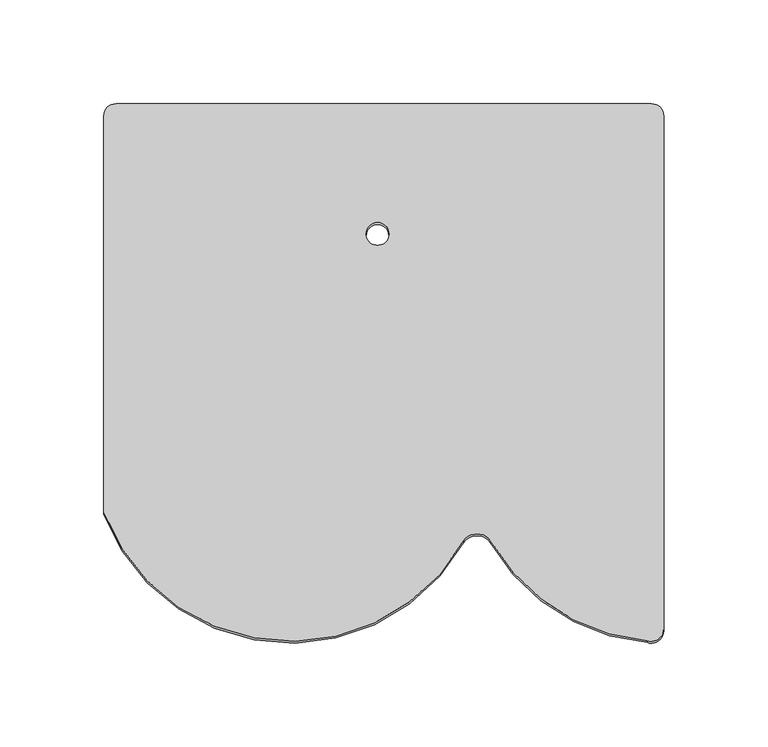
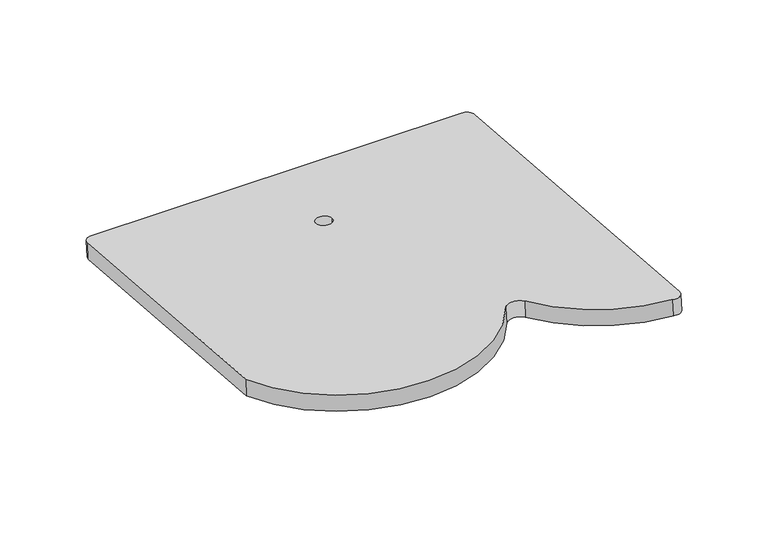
"""IFC4 building model written with IfcOpenShell, lengths in millimetres: proxy geometry, ML-PR-V-P-RED-N : K 1,5X-P."""

import ifcopenshell
import ifcopenshell.guid

model = None  # the IFC model being written
_history = None  # IfcOwnerHistory: only IFC2X3 demands one
_inside = {}  # id of a spatial element -> (the spatial element, [elements in it])
_under = {}  # id of a project, library or spatial element -> (it, [spatial elements below it])
_declared = {}  # id of a project -> (the project, [libraries it declares])
_typed = {}  # id of a type object -> (the type object, [elements of that type])
_made_of = {}  # id of a material, layer set ... -> (it, [elements and type objects made of it])


def new_model(schema):
    """Start an empty IFC model of exactly this schema.

    Asked for "IFC4X3", IfcOpenShell would pick the latest addendum, in which some entities
    have other attributes; the version numbers below select the first issue.
    IFC2X3 requires an IfcOwnerHistory on every rooted entity: one is made here for all.
    """
    global model, _history
    if schema == "IFC4X3":
        model = ifcopenshell.file(schema_version=(4, 3, 0, 0))
    else:
        model = ifcopenshell.file(schema=schema)
    _inside.clear()
    _under.clear()
    _declared.clear()
    _typed.clear()
    _made_of.clear()
    _history = None
    if model.schema == "IFC2X3":
        org = make("IfcOrganization", Name="unknown")
        user = make(
            "IfcPersonAndOrganization",
            ThePerson=make("IfcPerson", FamilyName="unknown"),
            TheOrganization=org,
        )
        app = make(
            "IfcApplication",
            ApplicationDeveloper=org,
            Version="unknown",
            ApplicationFullName="unknown",
            ApplicationIdentifier="unknown",
        )
        _history = make(
            "IfcOwnerHistory",
            OwningUser=user,
            OwningApplication=app,
            ChangeAction="ADDED",
            CreationDate=0,
        )
    return model


def make(cls, **values):
    """One entity of the class cls with the attributes given. An attribute that is None is left unset."""
    return model.create_entity(
        cls, **{name: value for name, value in values.items() if value is not None}
    )


def rooted(cls, **values):
    """An entity with a GlobalId (a new one), such as an element, a storey or a relation."""
    return make(cls, GlobalId=ifcopenshell.guid.new(), OwnerHistory=_history, **values)


def si_unit(unit_type, name, prefix=None):
    """IfcSIUnit, for example si_unit("LENGTHUNIT", "METRE", prefix="MILLI")."""
    return make("IfcSIUnit", UnitType=unit_type, Prefix=prefix, Name=name)


def assignment(units):
    """IfcUnitAssignment: the units of a project."""
    return None if units is None else make("IfcUnitAssignment", Units=units)


def point(xyz):
    """IfcCartesianPoint."""
    return None if xyz is None else make("IfcCartesianPoint", Coordinates=xyz)


def direction(xyz):
    """IfcDirection."""
    return None if xyz is None else make("IfcDirection", DirectionRatios=xyz)


def frame(location, z_axis=None, x_axis=None):
    """IfcAxis2Placement3D, a coordinate frame: its origin and axes. An axis left out is left unset."""
    return make(
        "IfcAxis2Placement3D",
        Location=point(location),
        Axis=direction(z_axis),
        RefDirection=direction(x_axis),
    )


def frame_2d(location, x_axis=None):
    """IfcAxis2Placement2D, a coordinate frame in the plane: its origin and x axis."""
    return make(
        "IfcAxis2Placement2D", Location=point(location), RefDirection=direction(x_axis)
    )


def origin():
    """The frame at (0, 0, 0) with its axes left unset."""
    return frame((0.0, 0.0, 0.0))


def place(relative_to, where):
    """IfcLocalPlacement: puts the frame where relative to a parent placement (None: the world)."""
    return make(
        "IfcLocalPlacement", PlacementRelTo=relative_to, RelativePlacement=where
    )


def context(
    kind, dimensions, precision=None, world=None, true_north=None, identifier=None
):
    """IfcGeometricRepresentationContext, for example the 3D "Model" context."""
    return make(
        "IfcGeometricRepresentationContext",
        ContextIdentifier=identifier,
        ContextType=kind,
        CoordinateSpaceDimension=dimensions,
        Precision=precision,
        WorldCoordinateSystem=world,
        TrueNorth=true_north,
    )


def project(units=None, contexts=None):
    """IfcProject with its units and contexts."""
    return rooted(
        "IfcProject",
        Name="project",
        RepresentationContexts=contexts,
        UnitsInContext=assignment(units),
    )


def spatial(cls, under=None, at=None, **own):
    """A site, building, storey or space (cls), placed at a placement, below another one or the project."""
    s = rooted(cls, ObjectPlacement=at, **own)
    if under is not None:
        _under.setdefault(under.id(), (under, []))[1].append(s)
    return s


def polyline(points):
    """IfcPolyline through the points."""
    return make("IfcPolyline", Points=[point(p) for p in points])


def circle_curve(where, radius):
    """IfcCircle in the frame where."""
    return make("IfcCircle", Position=where, Radius=radius)


def trimmed(basis, trim1, trim2, sense, master):
    """IfcTrimmedCurve: the piece of a basis curve between two trims."""
    return make(
        "IfcTrimmedCurve",
        BasisCurve=basis,
        Trim1=trim1,
        Trim2=trim2,
        SenseAgreement=sense,
        MasterRepresentation=master,
    )


def segment(curve, same_sense, transition):
    """IfcCompositeCurveSegment."""
    return make(
        "IfcCompositeCurveSegment",
        Transition=transition,
        SameSense=same_sense,
        ParentCurve=curve,
    )


def composite_curve(segments, self_intersect=None):
    """IfcCompositeCurve: segments joined end to end."""
    return make("IfcCompositeCurve", Segments=segments, SelfIntersect=self_intersect)


def outline(outer, holes=None, kind="AREA"):
    """IfcArbitraryClosedProfileDef: a profile drawn as a closed curve; with holes, ...WithVoids."""
    if holes is None:
        return make("IfcArbitraryClosedProfileDef", ProfileType=kind, OuterCurve=outer)
    return make(
        "IfcArbitraryProfileDefWithVoids",
        ProfileType=kind,
        OuterCurve=outer,
        InnerCurves=holes,
    )


def extrude(swept, where, along, depth):
    """IfcExtrudedAreaSolid: the profile swept, set in the frame where, extruded along a direction by depth."""
    return make(
        "IfcExtrudedAreaSolid",
        SweptArea=swept,
        Position=where,
        ExtrudedDirection=direction(along),
        Depth=depth,
    )


def shape(context_of_items, identifier, shape_type, items):
    """IfcShapeRepresentation: the items that make up one representation, for example the "Body"."""
    return make(
        "IfcShapeRepresentation",
        ContextOfItems=context_of_items,
        RepresentationIdentifier=identifier,
        RepresentationType=shape_type,
        Items=items,
    )


def source(mapping_origin, context_of_items, identifier, shape_type, items):
    """IfcRepresentationMap: a shape defined once, which mapped items show again and again."""
    return make(
        "IfcRepresentationMap",
        MappingOrigin=mapping_origin,
        MappedRepresentation=shape(context_of_items, identifier, shape_type, items),
    )


def transform(
    local_origin,
    x_axis=None,
    y_axis=None,
    z_axis=None,
    scale=None,
    scale2=None,
    scale3=None,
    uniform=True,
):
    """IfcCartesianTransformationOperator3D, or its non-uniform kind. x_axis, y_axis, z_axis: its Axis1, 2, 3."""
    if uniform:
        return make(
            "IfcCartesianTransformationOperator3D",
            Axis1=direction(x_axis),
            Axis2=direction(y_axis),
            LocalOrigin=point(local_origin),
            Scale=scale,
            Axis3=direction(z_axis),
        )
    return make(
        "IfcCartesianTransformationOperator3DnonUniform",
        Axis1=direction(x_axis),
        Axis2=direction(y_axis),
        LocalOrigin=point(local_origin),
        Scale=scale,
        Axis3=direction(z_axis),
        Scale2=scale2,
        Scale3=scale3,
    )


def mapped(mapping_source, mapping_target):
    """IfcMappedItem: shows the shape of a source again, moved by a transform."""
    return make(
        "IfcMappedItem", MappingSource=mapping_source, MappingTarget=mapping_target
    )


def made_of(thing, what):
    """Note that an element or type object is made of a material, layer set ...; save() writes the relation."""
    if what is not None:
        _made_of.setdefault(what.id(), (what, []))[1].append(thing)
    return thing


def element(
    cls,
    number,
    at=None,
    inside=None,
    cuts=None,
    type_object=None,
    material=None,
    context=None,
    identifier="Body",
    shape_type=None,
    held_by="IfcProductDefinitionShape",
    body=None,
    shapes=None,
    **own,
):
    """One element of the class cls, such as IfcWall. Its Tag is "e" and its number.

    at: its placement. inside: the storey or other place that contains it. cuts: it is an
    opening in that element (IfcRelVoidsElement). A single representation is given by context,
    identifier, shape_type and body (its items); several are given by shapes. held_by: the class
    of the entity that holds the representations. save() writes the other relations.
    """
    e = rooted(cls, Tag="e%d" % number, ObjectPlacement=at, **own)
    if body is not None:
        shapes = [shape(context, identifier, shape_type, body)]
    if shapes is not None:
        e.Representation = make(held_by, Representations=shapes)
    if inside is not None:
        _inside.setdefault(inside.id(), (inside, []))[1].append(e)
    if cuts is not None:
        rooted(
            "IfcRelVoidsElement", RelatingBuildingElement=cuts, RelatedOpeningElement=e
        )
    if type_object is not None:
        _typed.setdefault(type_object.id(), (type_object, []))[1].append(e)
    return made_of(e, material)


def aggregate(whole, parts):
    """IfcRelAggregates: a whole, such as a stair, and the parts it consists of."""
    return rooted("IfcRelAggregates", RelatingObject=whole, RelatedObjects=parts)


def save(model, path):
    """Write the relations noted so far, then the file.

    IfcRelAggregates (storeys below a building ...), IfcRelContainedInSpatialStructure (elements
    in a storey), IfcRelDefinesByType, IfcRelAssociatesMaterial and IfcRelDeclares: one each for
    every whole, place, type object, material and project.
    """
    for whole, parts in _under.values():
        aggregate(whole, parts)
    for where, things in _inside.values():
        rooted(
            "IfcRelContainedInSpatialStructure",
            RelatedElements=things,
            RelatingStructure=where,
        )
    for kind, things in _typed.values():
        rooted("IfcRelDefinesByType", RelatedObjects=things, RelatingType=kind)
    for what, things in _made_of.values():
        rooted("IfcRelAssociatesMaterial", RelatedObjects=things, RelatingMaterial=what)
    for by, libraries in _declared.values():
        rooted("IfcRelDeclares", RelatingContext=by, RelatedDefinitions=libraries)
    model.write(path)


def specialty_equipment_60fe5929(model_context):
    return source(origin(), model_context, "Body", "SweptSolid", [
        extrude(outline(composite_curve([segment(trimmed(circle_curve(frame_2d((311.4065862, -6.0)), 6.0), [point((311.4065862, 0.0))], [point((317.4065862, -6.0))], False, "CARTESIAN"), True, "CONTINUOUS"), segment(polyline([(317.4065862, -6.0), (317.4065862, -200.9980456), (317.4065862, -264.0)]), True, "CONTINUOUS"), segment(trimmed(circle_curve(frame_2d((311.4065862, -264.0)), 6.0), [point((317.4065862, -264.0))], [point((311.4065862, -270.0))], False, "CARTESIAN"), True, "CONTINUOUS"), segment(polyline([(311.4065862, -270.0), (63.4065862, -270.0)]), True, "CONTINUOUS"), segment(trimmed(circle_curve(frame_2d((63.4065862, -264.0)), 6.0), [point((63.4065862, -270.0))], [point((57.7376117, -262.0346176))], False, "CARTESIAN"), True, "CONTINUOUS"), segment(trimmed(circle_curve(frame_2d((153.4065862, -270.0)), 96.0), [point((57.7376117, -262.0346176))], [point((106.0035455, -186.5197525))], False, "CARTESIAN"), True, "CONTINUOUS"), segment(trimmed(circle_curve(frame_2d((101.3675097, -180.0)), 8.0), [point((106.0035455, -186.5197525))], [point((106.0035455, -173.4802475))], True, "CARTESIAN"), True, "CONTINUOUS"), segment(trimmed(circle_curve(frame_2d((153.4065862, -90.0)), 96.0), [point((106.0035455, -173.4802475))], [point((120.0, 0.0))], False, "CARTESIAN"), True, "CONTINUOUS"), segment(polyline([(120.0, 0.0), (311.4065862, 0.0)]), True, "CONTINUOUS")], self_intersect=False), holes=[composite_curve([segment(trimmed(circle_curve(frame_2d((254.4065862, -132.0)), 5.5), [point((254.4065862, -126.5))], [point((254.4065862, -137.5))], True, "CARTESIAN"), True, "CONTINUOUS"), segment(trimmed(circle_curve(frame_2d((254.4065862, -132.0)), 5.5), [point((254.4065862, -137.5))], [point((254.4065862, -126.5))], True, "CARTESIAN"), True, "CONTINUOUS")], self_intersect=False)]), frame((-90.0, -275.2871424, 21.569308), z_axis=(0.0, 0.07788766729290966, 0.9969621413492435), x_axis=(0.0, 0.9969621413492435, -0.07788766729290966)), (0.0, 0.0, 1.0), 11.5),
    ])


if __name__ == "__main__":
    model = new_model("IFC4")
    model_context = context("Model", 3, world=origin())
    ifc_project = project(units=[si_unit("LENGTHUNIT", "METRE", prefix="MILLI")], contexts=[model_context])
    site = spatial("IfcSite", under=ifc_project)
    building = spatial("IfcBuilding", under=site)
    placement = place(None, origin())
    specialty_equipment_shape = specialty_equipment_60fe5929(model_context)
    element("IfcBuildingElementProxy", 1, Name="ML-PR-V-P-RED-N : K 1,5X-P", ObjectType="ML-PR-V-P-RED-N : K 1,5X-P", at=placement, inside=building, context=model_context, shape_type="MappedRepresentation", body=[
        mapped(specialty_equipment_shape, transform((0.0, 0.0, 0.0), x_axis=(1.0, 0.0, 0.0), y_axis=(0.0, 1.0, 0.0), z_axis=(0.0, 0.0, 1.0))),
    ])
    save(model, "model.ifc")
